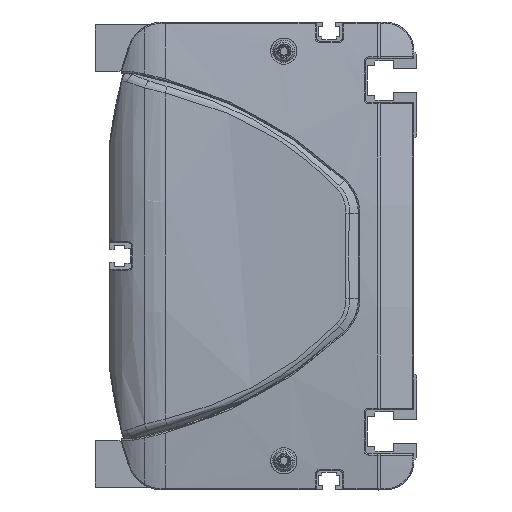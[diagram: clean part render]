
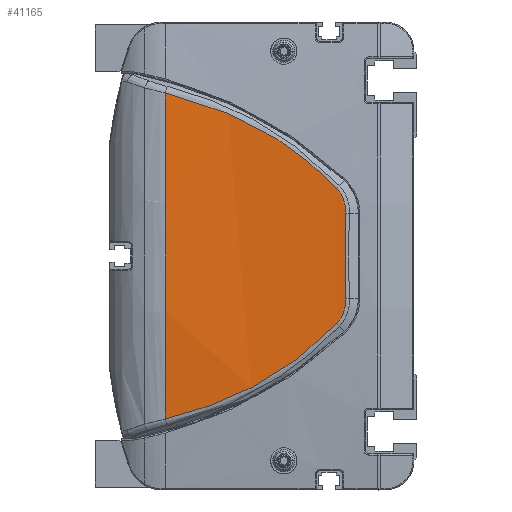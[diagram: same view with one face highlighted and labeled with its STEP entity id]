
A CAD part, left-side view. The second image highlights one B-rep face of the part: STEP entity #41165.
In plain terms, the highlighted cylindrical face has radius 600 mm (diameter 1200 mm), a partial arc.
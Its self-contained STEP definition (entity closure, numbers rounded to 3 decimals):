
#36116=CARTESIAN_POINT('',(-12.406,86.,
55.736));
#36136=CARTESIAN_POINT('',(-12.406,86.,
55.736));
#36137=CARTESIAN_POINT('',(-12.529,80.495,
54.41));
#36138=CARTESIAN_POINT('',(-12.828,69.636,
51.114));
#36139=CARTESIAN_POINT('',(-13.389,54.079,
44.179));
#36140=CARTESIAN_POINT('',(-14.01,39.709,
34.979));
#36141=CARTESIAN_POINT('',(-14.395,31.353,
27.243));
#36142=CARTESIAN_POINT('',(-14.555,27.451,
23.113));
#36144=CARTESIAN_POINT('',(-14.555,27.451,
23.113));
#36145=CARTESIAN_POINT('',(-14.598,26.394,
21.994));
#36146=CARTESIAN_POINT('',(-14.695,24.746,
19.315));
#36147=CARTESIAN_POINT('',(-14.783,24.276,
16.208));
#36148=CARTESIAN_POINT('',(-14.821,24.351,
14.67));
#36150=CARTESIAN_POINT('',(-14.821,24.351,
14.67));
#36151=CARTESIAN_POINT('',(-14.9,24.51,
11.413));
#36152=CARTESIAN_POINT('',(-15.007,24.721,
4.895));
#36153=CARTESIAN_POINT('',(-15.007,24.721,
-4.895));
#36154=CARTESIAN_POINT('',(-14.9,24.51,
-11.413));
#36155=CARTESIAN_POINT('',(-14.821,24.351,
-14.67));
#36157=CARTESIAN_POINT('',(-14.821,24.351,
-14.67));
#36158=CARTESIAN_POINT('',(-14.783,24.276,
-16.208));
#36159=CARTESIAN_POINT('',(-14.695,24.746,
-19.315));
#36160=CARTESIAN_POINT('',(-14.598,26.394,
-21.995));
#36161=CARTESIAN_POINT('',(-14.555,27.451,
-23.113));
#36163=CARTESIAN_POINT('',(-14.555,27.451,
-23.113));
#36164=CARTESIAN_POINT('',(-14.395,31.353,
-27.243));
#36165=CARTESIAN_POINT('',(-14.01,39.709,
-34.979));
#36166=CARTESIAN_POINT('',(-13.389,54.079,
-44.179));
#36167=CARTESIAN_POINT('',(-12.828,69.636,
-51.114));
#36168=CARTESIAN_POINT('',(-12.529,80.495,
-54.41));
#36169=CARTESIAN_POINT('',(-12.406,86.,
-55.736));
#36171=CARTESIAN_POINT('',(585.,86.,0.));
#36172=DIRECTION('',(0.,1.,0.));
#36173=DIRECTION('',(-0.996,0.,-0.093));
#36174=AXIS2_PLACEMENT_3D('',#36171,#36172,#36173);
#36737=VERTEX_POINT('',#36116);
#36738=CARTESIAN_POINT('',(-12.406,86.,
-55.736));
#36739=VERTEX_POINT('',#36738);
#36791=VERTEX_POINT('',#36142);
#36792=VERTEX_POINT('',#36148);
#36793=VERTEX_POINT('',#36155);
#36794=VERTEX_POINT('',#36161);
#41148=CARTESIAN_POINT('',(585.,87.45,0.));
#41149=DIRECTION('',(0.,-1.,0.));
#41150=DIRECTION('',(0.,0.,-1.));
#41151=AXIS2_PLACEMENT_3D('',#41148,#41149,#41150);
#41152=CYLINDRICAL_SURFACE('',#41151,600.);
#41153=ORIENTED_EDGE('',*,*,#41139,.T.);
#41155=ORIENTED_EDGE('',*,*,#41154,.T.);
#41157=ORIENTED_EDGE('',*,*,#41156,.T.);
#41159=ORIENTED_EDGE('',*,*,#41158,.T.);
#41161=ORIENTED_EDGE('',*,*,#41160,.T.);
#41162=ORIENTED_EDGE('',*,*,#41030,.T.);
#41163=EDGE_LOOP('',(#41153,#41155,#41157,#41159,#41161,#41162));
#41164=FACE_OUTER_BOUND('',#41163,.F.);
#41165=ADVANCED_FACE('',(#41164),#41152,.T.);
#36143=B_SPLINE_CURVE_WITH_KNOTS('',3,(#36136,#36137,#36138,#36139,#36140,
#36141,#36142),.UNSPECIFIED.,.F.,.F.,(4,1,1,1,4),(0.,0.25,0.5,0.75,
1.),.UNSPECIFIED.);
#36149=B_SPLINE_CURVE_WITH_KNOTS('',3,(#36144,#36145,#36146,#36147,#36148),
.UNSPECIFIED.,.F.,.F.,(4,1,4),(0.,0.5,1.),.UNSPECIFIED.);
#36156=B_SPLINE_CURVE_WITH_KNOTS('',3,(#36150,#36151,#36152,#36153,#36154,
#36155),.UNSPECIFIED.,.F.,.F.,(4,1,1,4),(0.,0.333,
0.667,1.),.UNSPECIFIED.);
#36162=B_SPLINE_CURVE_WITH_KNOTS('',3,(#36157,#36158,#36159,#36160,#36161),
.UNSPECIFIED.,.F.,.F.,(4,1,4),(0.,0.5,1.),.UNSPECIFIED.);
#36170=B_SPLINE_CURVE_WITH_KNOTS('',3,(#36163,#36164,#36165,#36166,#36167,
#36168,#36169),.UNSPECIFIED.,.F.,.F.,(4,1,1,1,4),(0.,0.25,0.5,0.75,
1.),.UNSPECIFIED.);
#36175=CIRCLE('',#36174,600.);
#41030=EDGE_CURVE('',#36739,#36737,#36175,.T.);
#41139=EDGE_CURVE('',#36737,#36791,#36143,.T.);
#41154=EDGE_CURVE('',#36791,#36792,#36149,.T.);
#41156=EDGE_CURVE('',#36792,#36793,#36156,.T.);
#41158=EDGE_CURVE('',#36793,#36794,#36162,.T.);
#41160=EDGE_CURVE('',#36794,#36739,#36170,.T.);
